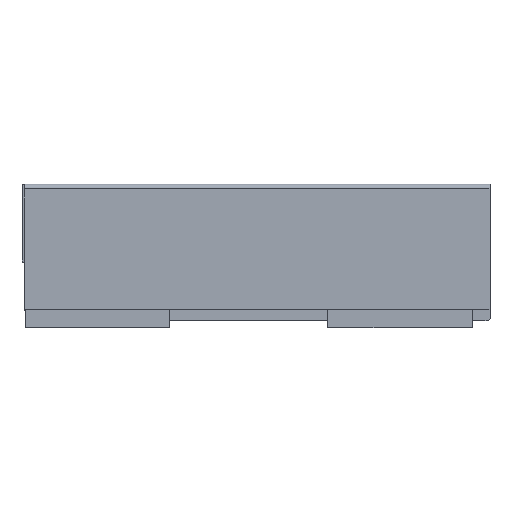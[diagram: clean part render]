
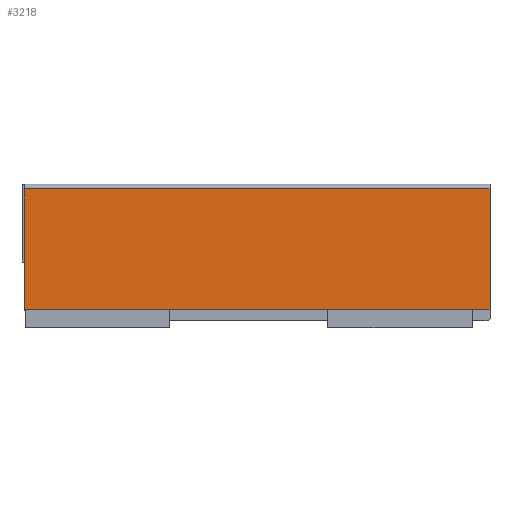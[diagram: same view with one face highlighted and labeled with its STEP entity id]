
A CAD part, left-side view. The second image highlights one B-rep face of the part: STEP entity #3218.
In plain terms, the highlighted planar face has unit normal (-1, 0, 0).
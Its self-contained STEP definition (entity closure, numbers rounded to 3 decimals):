
#212 = EDGE_CURVE ( 'NONE', #626, #1777, #1622, .T. ) ;
#285 = AXIS2_PLACEMENT_3D ( 'NONE', #2857, #2863, #2864 ) ;
#342 = EDGE_CURVE ( 'NONE', #626, #2218, #1723, .T. ) ;
#386 = EDGE_CURVE ( 'NONE', #2218, #2216, #2056, .T. ) ;
#578 = EDGE_CURVE ( 'NONE', #1777, #2216, #941, .T. ) ;
#626 = VERTEX_POINT ( 'NONE', #2351 ) ;
#774 = FACE_OUTER_BOUND ( 'NONE', #1866, .T. ) ;
#941 = LINE ( 'NONE', #2309, #942 ) ;
#942 = VECTOR ( 'NONE', #2310, 1000. ) ;
#1027 = CARTESIAN_POINT ( 'NONE',  ( -4.1, 290., -28.503 ) ) ;
#1032 = DIRECTION ( 'NONE',  ( 0., 0., 1. ) ) ;
#1145 = CARTESIAN_POINT ( 'NONE',  ( -4.1, 290., -28.503 ) ) ;
#1146 = DIRECTION ( 'NONE',  ( 0., -1., 0. ) ) ;
#1215 = CARTESIAN_POINT ( 'NONE',  ( -4.1, 0., -7.702 ) ) ;
#1216 = DIRECTION ( 'NONE',  ( 0., 0., 1. ) ) ;
#1622 = LINE ( 'NONE', #1027, #1629 ) ;
#1629 = VECTOR ( 'NONE', #1032, 1000. ) ;
#1723 = LINE ( 'NONE', #1145, #1724 ) ;
#1724 = VECTOR ( 'NONE', #1146, 1000. ) ;
#1777 = VERTEX_POINT ( 'NONE', #2443 ) ;
#1866 = EDGE_LOOP ( 'NONE', ( #3080, #3079, #3076, #3075 ) ) ;
#2056 = LINE ( 'NONE', #1215, #2057 ) ;
#2057 = VECTOR ( 'NONE', #1216, 1000. ) ;
#2216 = VERTEX_POINT ( 'NONE', #2484 ) ;
#2218 = VERTEX_POINT ( 'NONE', #2486 ) ;
#2309 = CARTESIAN_POINT ( 'NONE',  ( -4.1, 290., 46.498 ) ) ;
#2310 = DIRECTION ( 'NONE',  ( 0., -1., 0. ) ) ;
#2351 = CARTESIAN_POINT ( 'NONE',  ( -4.1, 290., -28.503 ) ) ;
#2443 = CARTESIAN_POINT ( 'NONE',  ( -4.1, 290., 46.498 ) ) ;
#2484 = CARTESIAN_POINT ( 'NONE',  ( -4.1, 0., 46.498 ) ) ;
#2486 = CARTESIAN_POINT ( 'NONE',  ( -4.1, 0., -28.503 ) ) ;
#2853 = PLANE ( 'NONE',  #285 ) ;
#2857 = CARTESIAN_POINT ( 'NONE',  ( -4.1, 290., -7.702 ) ) ;
#2863 = DIRECTION ( 'NONE',  ( -1., 0., 0. ) ) ;
#2864 = DIRECTION ( 'NONE',  ( 0., 1., 0. ) ) ;
#3075 = ORIENTED_EDGE ( 'NONE', *, *, #342, .T. ) ;
#3076 = ORIENTED_EDGE ( 'NONE', *, *, #212, .F. ) ;
#3079 = ORIENTED_EDGE ( 'NONE', *, *, #578, .F. ) ;
#3080 = ORIENTED_EDGE ( 'NONE', *, *, #386, .T. ) ;
#3218 = ADVANCED_FACE ( 'NONE', ( #774 ), #2853, .T. ) ;
